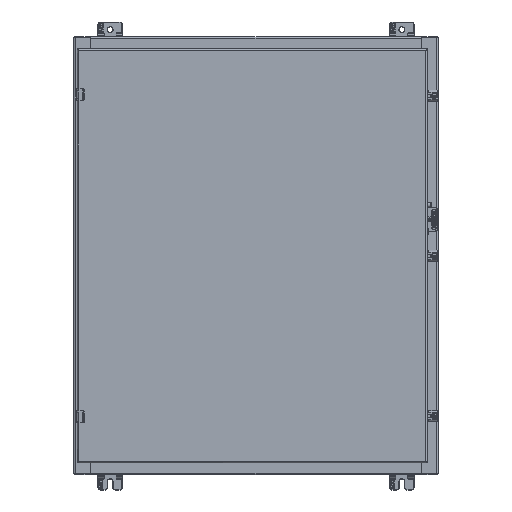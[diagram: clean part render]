
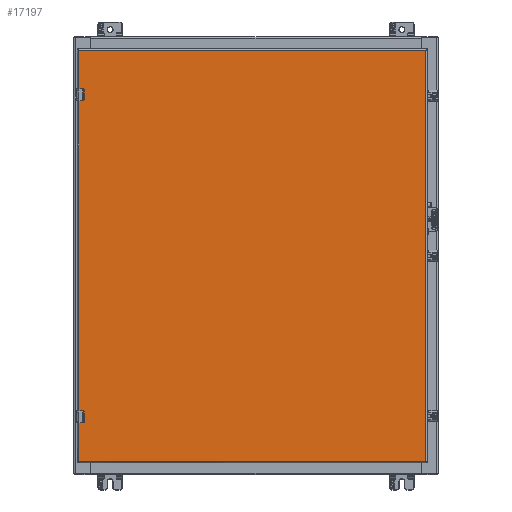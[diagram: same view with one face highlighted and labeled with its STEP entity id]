
A CAD part, top view. The second image highlights one B-rep face of the part: STEP entity #17197.
In plain terms, the highlighted planar face has unit normal (0, 0, 1) as drawn and (0, 1, 0) by its records, which use the part's own axes.
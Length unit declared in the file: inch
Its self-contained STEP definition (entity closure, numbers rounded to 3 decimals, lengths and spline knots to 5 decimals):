
#13530=DIRECTION('',(0.,0.,1.));
#13531=VECTOR('',#13530,28.566);
#13532=CARTESIAN_POINT('',(-16.91438,0.,0.117));
#13533=LINE('',#13532,#13531);
#13614=DIRECTION('',(0.,0.,-1.));
#13615=VECTOR('',#13614,0.3629);
#13616=CARTESIAN_POINT('',(13.59513,0.,28.683));
#13617=LINE('',#13616,#13615);
#13621=DIRECTION('',(-1.,0.,0.));
#13622=VECTOR('',#13621,0.63);
#13623=CARTESIAN_POINT('',(13.56513,0.,28.2901));
#13624=LINE('',#13623,#13622);
#13628=DIRECTION('',(0.,0.,-1.));
#13629=VECTOR('',#13628,0.3629);
#13630=CARTESIAN_POINT('',(12.90513,0.,28.683));
#13631=LINE('',#13630,#13629);
#13635=DIRECTION('',(0.,0.,-1.));
#13636=VECTOR('',#13635,0.3629);
#13637=CARTESIAN_POINT('',(-12.90513,0.,28.683));
#13638=LINE('',#13637,#13636);
#13642=DIRECTION('',(-1.,0.,0.));
#13643=VECTOR('',#13642,0.63);
#13644=CARTESIAN_POINT('',(-12.93513,0.,28.2901));
#13645=LINE('',#13644,#13643);
#13649=DIRECTION('',(0.,0.,-1.));
#13650=VECTOR('',#13649,0.3629);
#13651=CARTESIAN_POINT('',(-13.59513,0.,28.683));
#13652=LINE('',#13651,#13650);
#13656=DIRECTION('',(0.,0.,1.));
#13657=VECTOR('',#13656,28.566);
#13658=CARTESIAN_POINT('',(16.91438,0.,0.117));
#13659=LINE('',#13658,#13657);
#13835=DIRECTION('',(-1.,0.,0.));
#13836=VECTOR('',#13835,33.82875);
#13837=CARTESIAN_POINT('',(16.91438,0.,0.117));
#13838=LINE('',#13837,#13836);
#14793=CARTESIAN_POINT('',(12.93513,0.,28.3201));
#14794=DIRECTION('',(0.,-1.,0.));
#14795=DIRECTION('',(-1.,0.,0.));
#14796=AXIS2_PLACEMENT_3D('',#14793,#14794,#14795);
#14823=CARTESIAN_POINT('',(13.56513,0.,28.3201));
#14824=DIRECTION('',(0.,-1.,0.));
#14825=DIRECTION('',(0.,0.,-1.));
#14826=AXIS2_PLACEMENT_3D('',#14823,#14824,#14825);
#15232=DIRECTION('',(-1.,0.,0.));
#15233=VECTOR('',#15232,25.81025);
#15234=CARTESIAN_POINT('',(12.90513,0.,28.683));
#15235=LINE('',#15234,#15233);
#15276=DIRECTION('',(-1.,0.,0.));
#15277=VECTOR('',#15276,3.31925);
#15278=CARTESIAN_POINT('',(-13.59513,0.,28.683));
#15279=LINE('',#15278,#15277);
#15313=DIRECTION('',(-1.,0.,0.));
#15314=VECTOR('',#15313,3.31925);
#15315=CARTESIAN_POINT('',(16.91438,0.,28.683));
#15316=LINE('',#15315,#15314);
#15394=CARTESIAN_POINT('',(-13.56513,0.,28.3201));
#15395=DIRECTION('',(0.,-1.,0.));
#15396=DIRECTION('',(-1.,0.,0.));
#15397=AXIS2_PLACEMENT_3D('',#15394,#15395,#15396);
#15424=CARTESIAN_POINT('',(-12.93513,0.,28.3201));
#15425=DIRECTION('',(0.,-1.,0.));
#15426=DIRECTION('',(0.,0.,-1.));
#15427=AXIS2_PLACEMENT_3D('',#15424,#15425,#15426);
#16262=CARTESIAN_POINT('',(16.91438,0.,0.117));
#16263=CARTESIAN_POINT('',(-16.91438,0.,0.117));
#16264=VERTEX_POINT('',#16262);
#16265=VERTEX_POINT('',#16263);
#16472=CARTESIAN_POINT('',(-16.91438,0.,28.683));
#16473=VERTEX_POINT('',#16472);
#16482=CARTESIAN_POINT('',(16.91438,0.,28.683));
#16484=VERTEX_POINT('',#16482);
#16611=CARTESIAN_POINT('',(-12.90513,0.,28.683));
#16613=VERTEX_POINT('',#16611);
#16615=CARTESIAN_POINT('',(-13.59513,0.,28.683));
#16617=VERTEX_POINT('',#16615);
#16627=CARTESIAN_POINT('',(13.59513,0.,28.683));
#16629=VERTEX_POINT('',#16627);
#16631=CARTESIAN_POINT('',(12.90513,0.,28.683));
#16633=VERTEX_POINT('',#16631);
#16642=CARTESIAN_POINT('',(-13.59513,0.,28.3201));
#16644=VERTEX_POINT('',#16642);
#16646=CARTESIAN_POINT('',(-13.56513,0.,28.2901));
#16648=VERTEX_POINT('',#16646);
#16666=CARTESIAN_POINT('',(-12.93513,0.,28.2901));
#16668=VERTEX_POINT('',#16666);
#16670=CARTESIAN_POINT('',(-12.90513,0.,28.3201));
#16672=VERTEX_POINT('',#16670);
#16674=CARTESIAN_POINT('',(12.90513,0.,28.3201));
#16676=VERTEX_POINT('',#16674);
#16678=CARTESIAN_POINT('',(12.93513,0.,28.2901));
#16680=VERTEX_POINT('',#16678);
#16698=CARTESIAN_POINT('',(13.56513,0.,28.2901));
#16700=VERTEX_POINT('',#16698);
#16702=CARTESIAN_POINT('',(13.59513,0.,28.3201));
#16704=VERTEX_POINT('',#16702);
#17159=CARTESIAN_POINT('',(17.03138,0.,0.));
#17160=DIRECTION('',(0.,1.,0.));
#17161=DIRECTION('',(-1.,0.,0.));
#17162=AXIS2_PLACEMENT_3D('',#17159,#17160,#17161);
#17163=PLANE('',#17162);
#17165=ORIENTED_EDGE('',*,*,#17164,.T.);
#17167=ORIENTED_EDGE('',*,*,#17166,.T.);
#17169=ORIENTED_EDGE('',*,*,#17168,.T.);
#17171=ORIENTED_EDGE('',*,*,#17170,.F.);
#17173=ORIENTED_EDGE('',*,*,#17172,.T.);
#17175=ORIENTED_EDGE('',*,*,#17174,.F.);
#17177=ORIENTED_EDGE('',*,*,#17176,.F.);
#17179=ORIENTED_EDGE('',*,*,#17178,.T.);
#17181=ORIENTED_EDGE('',*,*,#17180,.T.);
#17183=ORIENTED_EDGE('',*,*,#17182,.F.);
#17185=ORIENTED_EDGE('',*,*,#17184,.T.);
#17187=ORIENTED_EDGE('',*,*,#17186,.F.);
#17189=ORIENTED_EDGE('',*,*,#17188,.F.);
#17191=ORIENTED_EDGE('',*,*,#17190,.T.);
#17192=ORIENTED_EDGE('',*,*,#17149,.F.);
#17194=ORIENTED_EDGE('',*,*,#17193,.F.);
#17195=EDGE_LOOP('',(#17165,#17167,#17169,#17171,#17173,#17175,#17177,#17179,
#17181,#17183,#17185,#17187,#17189,#17191,#17192,#17194));
#17196=FACE_OUTER_BOUND('',#17195,.F.);
#14797=CIRCLE('',#14796,0.03);
#14827=CIRCLE('',#14826,0.03);
#15398=CIRCLE('',#15397,0.03);
#15428=CIRCLE('',#15427,0.03);
#17149=EDGE_CURVE('',#16265,#16473,#13533,.T.);
#17164=EDGE_CURVE('',#16264,#16484,#13659,.T.);
#17166=EDGE_CURVE('',#16484,#16629,#15316,.T.);
#17168=EDGE_CURVE('',#16629,#16704,#13617,.T.);
#17170=EDGE_CURVE('',#16700,#16704,#14827,.T.);
#17172=EDGE_CURVE('',#16700,#16680,#13624,.T.);
#17174=EDGE_CURVE('',#16676,#16680,#14797,.T.);
#17176=EDGE_CURVE('',#16633,#16676,#13631,.T.);
#17178=EDGE_CURVE('',#16633,#16613,#15235,.T.);
#17180=EDGE_CURVE('',#16613,#16672,#13638,.T.);
#17182=EDGE_CURVE('',#16668,#16672,#15428,.T.);
#17184=EDGE_CURVE('',#16668,#16648,#13645,.T.);
#17186=EDGE_CURVE('',#16644,#16648,#15398,.T.);
#17188=EDGE_CURVE('',#16617,#16644,#13652,.T.);
#17190=EDGE_CURVE('',#16617,#16473,#15279,.T.);
#17193=EDGE_CURVE('',#16264,#16265,#13838,.T.);
#17197=ADVANCED_FACE('',(#17196),#17163,.T.);
